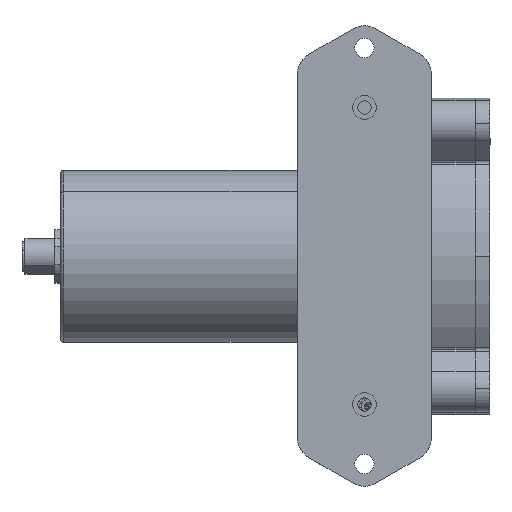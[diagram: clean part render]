
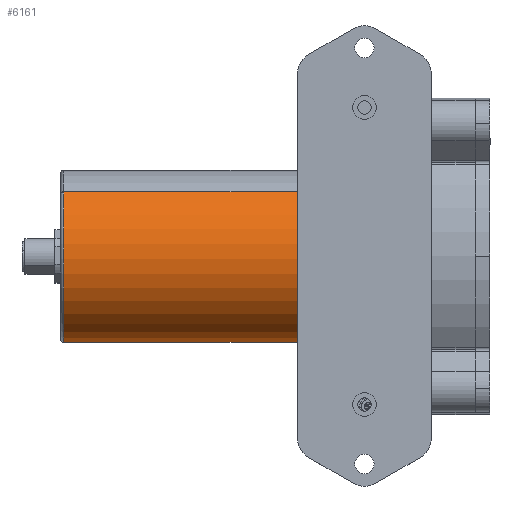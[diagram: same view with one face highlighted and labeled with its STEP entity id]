
A CAD part, top view. The second image highlights one B-rep face of the part: STEP entity #6161.
In plain terms, the highlighted cylindrical face has radius 29 mm (diameter 58 mm), a partial arc.
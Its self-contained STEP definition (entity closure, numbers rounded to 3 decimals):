
#6157 = EDGE_CURVE ( 'NONE', #6158, #6404, #10833, .T. ) ;
#6158 = VERTEX_POINT ( 'NONE', #10826 ) ;
#6161 = ADVANCED_FACE ( 'NONE', ( #10813 ), #10772, .T. ) ;
#6162 = EDGE_LOOP ( 'NONE', ( #6163, #6403, #6394, #6228 ) ) ;
#6163 = ORIENTED_EDGE ( 'NONE', *, *, #6157, .T. ) ;
#6227 = VERTEX_POINT ( 'NONE', #11173 ) ;
#6228 = ORIENTED_EDGE ( 'NONE', *, *, #6229, .F. ) ;
#6229 = EDGE_CURVE ( 'NONE', #6158, #6227, #11088, .T. ) ;
#6394 = ORIENTED_EDGE ( 'NONE', *, *, #6402, .F. ) ;
#6395 = VERTEX_POINT ( 'NONE', #11731 ) ;
#6396 = EDGE_CURVE ( 'NONE', #6404, #6395, #11729, .T. ) ;
#6402 = EDGE_CURVE ( 'NONE', #6227, #6395, #11628, .T. ) ;
#6403 = ORIENTED_EDGE ( 'NONE', *, *, #6396, .T. ) ;
#6404 = VERTEX_POINT ( 'NONE', #11623 ) ;
#10762 = DIRECTION ( 'NONE',  ( 0., 0.747, 0.665 ) ) ;
#10763 = DIRECTION ( 'NONE',  ( 1., 0., 0. ) ) ;
#10764 = CARTESIAN_POINT ( 'NONE',  ( -21.311, 17.305, -36.745 ) ) ;
#10765 = AXIS2_PLACEMENT_3D ( 'NONE', #10764, #10763, #10762 ) ;
#10772 = CYLINDRICAL_SURFACE ( 'NONE', #10765, 29. ) ;
#10813 = FACE_OUTER_BOUND ( 'NONE', #6162, .T. ) ;
#10826 = CARTESIAN_POINT ( 'NONE',  ( -113.5, 38.966, -17.463 ) ) ;
#10827 = DIRECTION ( 'NONE',  ( 0., 0.747, 0.665 ) ) ;
#10828 = DIRECTION ( 'NONE',  ( 1., 0., 0. ) ) ;
#10830 = CARTESIAN_POINT ( 'NONE',  ( -113.5, 17.305, -36.745 ) ) ;
#10832 = AXIS2_PLACEMENT_3D ( 'NONE', #10830, #10828, #10827 ) ;
#10833 = CIRCLE ( 'NONE', #10832, 29. ) ;
#11084 = DIRECTION ( 'NONE',  ( 1., 0., 0. ) ) ;
#11085 = VECTOR ( 'NONE', #11084, 1000. ) ;
#11086 = CARTESIAN_POINT ( 'NONE',  ( -21.311, 38.966, -17.463 ) ) ;
#11088 = LINE ( 'NONE', #11086, #11085 ) ;
#11173 = CARTESIAN_POINT ( 'NONE',  ( -29.5, 38.966, -17.463 ) ) ;
#11623 = CARTESIAN_POINT ( 'NONE',  ( -113.5, -4.357, -56.026 ) ) ;
#11624 = DIRECTION ( 'NONE',  ( 0., 0.747, 0.665 ) ) ;
#11625 = DIRECTION ( 'NONE',  ( 1., 0., 0. ) ) ;
#11626 = CARTESIAN_POINT ( 'NONE',  ( -29.5, 17.305, -36.745 ) ) ;
#11627 = AXIS2_PLACEMENT_3D ( 'NONE', #11626, #11625, #11624 ) ;
#11628 = CIRCLE ( 'NONE', #11627, 29. ) ;
#11726 = DIRECTION ( 'NONE',  ( 1., 0., 0. ) ) ;
#11727 = VECTOR ( 'NONE', #11726, 1000. ) ;
#11728 = CARTESIAN_POINT ( 'NONE',  ( -21.311, -4.357, -56.026 ) ) ;
#11729 = LINE ( 'NONE', #11728, #11727 ) ;
#11731 = CARTESIAN_POINT ( 'NONE',  ( -29.5, -4.357, -56.026 ) ) ;
